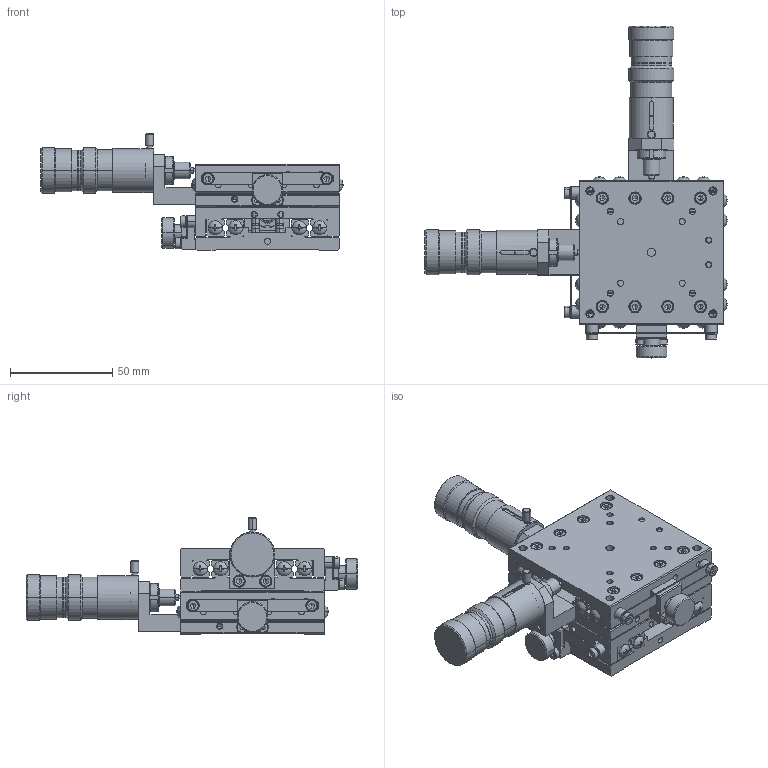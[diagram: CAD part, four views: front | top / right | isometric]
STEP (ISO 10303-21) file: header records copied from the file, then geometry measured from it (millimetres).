
FILE_DESCRIPTION (( 'STEP AP214' ), '1' );
FILE_NAME ('YM07A-C3-CL.STEP', '2009-05-11T07:58:13', ( ' ' ), ( ' ' ), 'SwSTEP 2.0', 'SolidWorks 2008', '' );
FILE_SCHEMA (( 'AUTOMOTIVE_DESIGN' ));
Length unit declared in the file: millimetre
Products named in the file (10): 001490-1011(3D)-Part-1-5; 001490-1011(3D)-5; 001490-1011(3D)-Part-2-5; 001490-1023(3D)-3; YM07A-C3-CL; 001490-1011(3D)-Part-1-4; 001490-1011(3D)-4; XM07A-C3-CL(PL); XM07A-C3-CL(PL)-1; 001490-1011(3D)-Part-2-4
Assembly tree (9 placements, depth 4):
  YM07A-C3-CL
    XM07A-C3-CL(PL)
      001490-1011(3D)-4
        001490-1011(3D)-Part-1-4
        001490-1011(3D)-Part-2-4
    XM07A-C3-CL(PL)-1
      001490-1023(3D)-3
      001490-1011(3D)-5
        001490-1011(3D)-Part-2-5
        001490-1011(3D)-Part-1-5
Bounding box: 147.37 x 162 x 57 mm (x, y, z)
Volume: 220582.3 mm3; surface area: 104775.5 mm2
Topology: 5 solids, 81 shells, 3610 faces, 8636 edges, 5180 vertices
Faces by surface type: plane 1644, cylinder 1124, cone 776, sphere 34, torus 32
Entity records: 105217 total; most frequent: CARTESIAN_POINT 19808, DIRECTION 18970, ORIENTED_EDGE 16912, EDGE_CURVE 8456, AXIS2_PLACEMENT_3D 7280, VERTEX_POINT 5178, VECTOR 4410, LINE 4410
